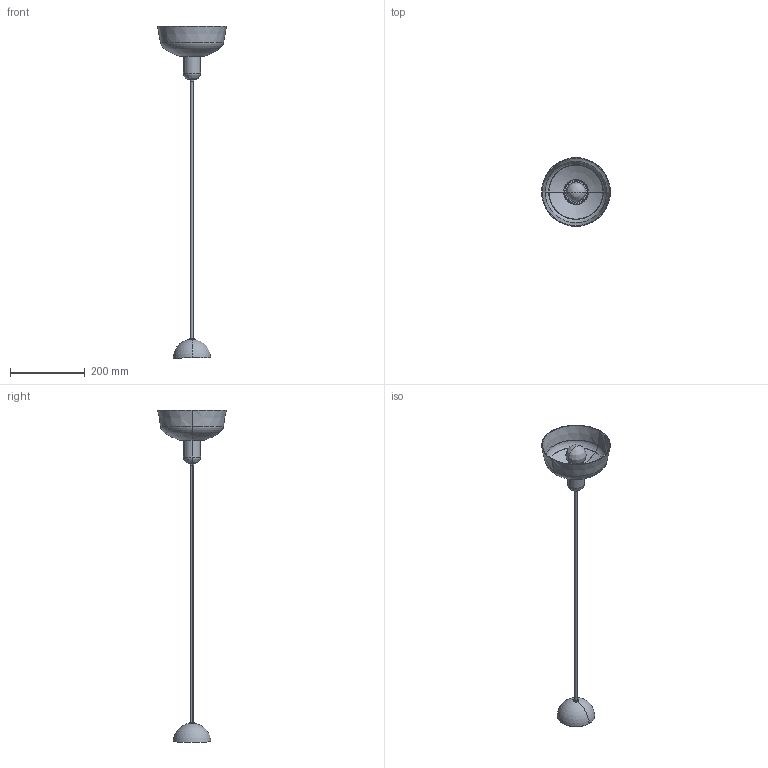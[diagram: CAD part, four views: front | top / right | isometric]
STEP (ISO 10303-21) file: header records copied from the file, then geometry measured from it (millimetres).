
FILE_DESCRIPTION(/* description */ (''),/* implementation_level */ '2;1');
FILE_NAME(/* name */ 'tatawin_pendantlamp_s_1.step',/* time_stamp */ '2024-10-22T12:49:04+02:00',/* author */ ('RenataManzini'),/* organization */ (''),/* preprocessor_version */ 'ST-DEVELOPER v20',/* originating_system */ 'AutoCAD Mechanical',/* authorisation */ '');
FILE_SCHEMA (('AUTOMOTIVE_DESIGN { 1 0 10303 214 3 1 1 }'));
Length unit declared in the file: millimetre
Products named in the file (2): Product; pieza_TATAWIN_LAMP_LINEALrfa - soporte-639707-_3D_
Assembly tree (1 placements, depth 2):
  Product
    pieza_TATAWIN_LAMP_LINEALrfa - soporte-639707-_3D_
Bounding box: 184.01 x 184.01 x 887.29 mm (x, y, z)
Volume: 377048.6 mm3; surface area: 295429.4 mm2
Topology: 9 solids, 9 shells, 168 faces, 381 edges, 217 vertices
Faces by surface type: plane 62, cylinder 52, bspline 20, torus 18, cone 12, sphere 4
Entity records: 6584 total; most frequent: CARTESIAN_POINT 2970, ORIENTED_EDGE 752, DIRECTION 732, EDGE_CURVE 376, AXIS2_PLACEMENT_3D 290, VERTEX_POINT 216, EDGE_LOOP 174, FACE_OUTER_BOUND 168
